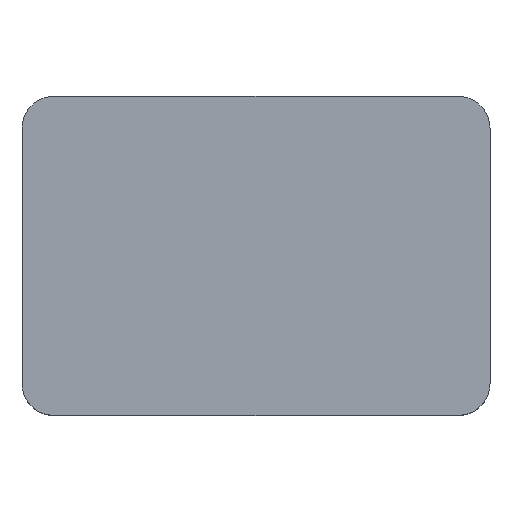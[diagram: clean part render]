
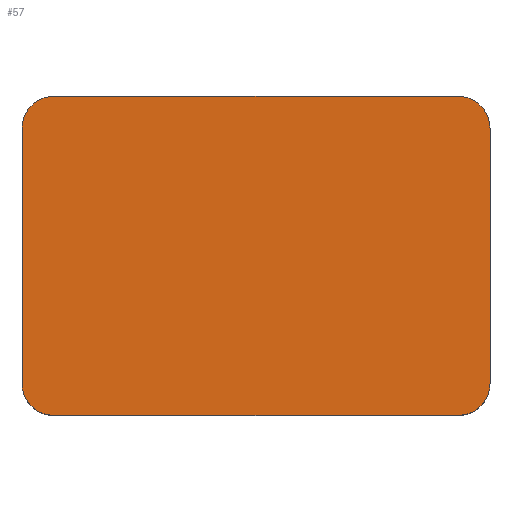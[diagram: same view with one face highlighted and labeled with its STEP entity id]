
A CAD part, top view. The second image highlights one B-rep face of the part: STEP entity #57.
In plain terms, the highlighted planar face has unit normal (0, 0, 1).
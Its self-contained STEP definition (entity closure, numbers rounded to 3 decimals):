
#21 = EDGE_CURVE('',#22,#24,#26,.T.);
#22 = VERTEX_POINT('',#23);
#23 = CARTESIAN_POINT('',(-62.,40.,33.));
#24 = VERTEX_POINT('',#25);
#25 = CARTESIAN_POINT('',(-62.,64.,33.));
#26 = LINE('',#27,#28);
#27 = CARTESIAN_POINT('',(-62.,37.,33.));
#28 = VECTOR('',#29,1.);
#29 = DIRECTION('',(0.,1.,0.));
#57 = ADVANCED_FACE('',(#58),#119,.T.);
#58 = FACE_BOUND('',#59,.T.);
#59 = EDGE_LOOP('',(#60,#61,#70,#78,#87,#95,#104,#112));
#60 = ORIENTED_EDGE('',*,*,#21,.F.);
#61 = ORIENTED_EDGE('',*,*,#62,.T.);
#62 = EDGE_CURVE('',#22,#63,#65,.T.);
#63 = VERTEX_POINT('',#64);
#64 = CARTESIAN_POINT('',(-59.,37.,33.));
#65 = CIRCLE('',#66,3.);
#66 = AXIS2_PLACEMENT_3D('',#67,#68,#69);
#67 = CARTESIAN_POINT('',(-59.,40.,33.));
#68 = DIRECTION('',(-0.,0.,1.));
#69 = DIRECTION('',(0.,-1.,0.));
#70 = ORIENTED_EDGE('',*,*,#71,.T.);
#71 = EDGE_CURVE('',#63,#72,#74,.T.);
#72 = VERTEX_POINT('',#73);
#73 = CARTESIAN_POINT('',(-21.,37.,33.));
#74 = LINE('',#75,#76);
#75 = CARTESIAN_POINT('',(-62.,37.,33.));
#76 = VECTOR('',#77,1.);
#77 = DIRECTION('',(1.,0.,0.));
#78 = ORIENTED_EDGE('',*,*,#79,.F.);
#79 = EDGE_CURVE('',#80,#72,#82,.T.);
#80 = VERTEX_POINT('',#81);
#81 = CARTESIAN_POINT('',(-18.,40.,33.));
#82 = CIRCLE('',#83,3.);
#83 = AXIS2_PLACEMENT_3D('',#84,#85,#86);
#84 = CARTESIAN_POINT('',(-21.,40.,33.));
#85 = DIRECTION('',(-0.,-0.,-1.));
#86 = DIRECTION('',(0.,-1.,0.));
#87 = ORIENTED_EDGE('',*,*,#88,.T.);
#88 = EDGE_CURVE('',#80,#89,#91,.T.);
#89 = VERTEX_POINT('',#90);
#90 = CARTESIAN_POINT('',(-18.,64.,33.));
#91 = LINE('',#92,#93);
#92 = CARTESIAN_POINT('',(-18.,37.,33.));
#93 = VECTOR('',#94,1.);
#94 = DIRECTION('',(0.,1.,0.));
#95 = ORIENTED_EDGE('',*,*,#96,.T.);
#96 = EDGE_CURVE('',#89,#97,#99,.T.);
#97 = VERTEX_POINT('',#98);
#98 = CARTESIAN_POINT('',(-21.,67.,33.));
#99 = CIRCLE('',#100,3.);
#100 = AXIS2_PLACEMENT_3D('',#101,#102,#103);
#101 = CARTESIAN_POINT('',(-21.,64.,33.));
#102 = DIRECTION('',(-0.,0.,1.));
#103 = DIRECTION('',(0.,-1.,0.));
#104 = ORIENTED_EDGE('',*,*,#105,.F.);
#105 = EDGE_CURVE('',#106,#97,#108,.T.);
#106 = VERTEX_POINT('',#107);
#107 = CARTESIAN_POINT('',(-59.,67.,33.));
#108 = LINE('',#109,#110);
#109 = CARTESIAN_POINT('',(-62.,67.,33.));
#110 = VECTOR('',#111,1.);
#111 = DIRECTION('',(1.,0.,0.));
#112 = ORIENTED_EDGE('',*,*,#113,.F.);
#113 = EDGE_CURVE('',#24,#106,#114,.T.);
#114 = CIRCLE('',#115,3.);
#115 = AXIS2_PLACEMENT_3D('',#116,#117,#118);
#116 = CARTESIAN_POINT('',(-59.,64.,33.));
#117 = DIRECTION('',(-0.,-0.,-1.));
#118 = DIRECTION('',(0.,-1.,0.));
#119 = PLANE('',#120);
#120 = AXIS2_PLACEMENT_3D('',#121,#122,#123);
#121 = CARTESIAN_POINT('',(-62.,37.,33.));
#122 = DIRECTION('',(0.,0.,1.));
#123 = DIRECTION('',(1.,0.,0.));
